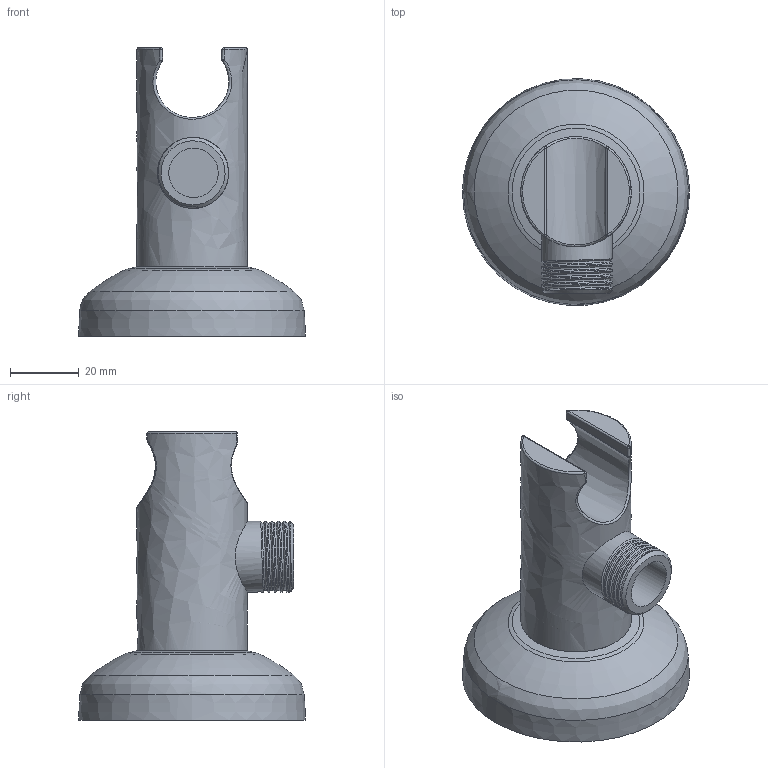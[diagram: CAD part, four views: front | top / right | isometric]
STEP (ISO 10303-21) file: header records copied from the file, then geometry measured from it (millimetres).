
FILE_DESCRIPTION(/* description */ (''),/* implementation_level */ '2;1');
FILE_NAME(/* name */ 'c:\worker\convert-fusion-r09\tmp\job-1\5\output\files\bb2e0d52-08d5-4457-8f8d-439637e3b1f9\7eff76ff-e566-47a0-8b2c-3e2f5fff1684.zip.stp',/* time_stamp */ '2019-12-14T15:53:03+00:00',/* author */ (''),/* organization */ (''),/* preprocessor_version */ 'ST-DEVELOPER v18',/* originating_system */ 'Autodesk Translation Framework v8.12.0.6',/* authorisation */ '');
FILE_SCHEMA (('AUTOMOTIVE_DESIGN { 1 0 10303 214 3 1 1 }'));
Length unit declared in the file: millimetre
Products named in the file (1): !8869
Bounding box: 65.92 x 65.83 x 83.69 mm (x, y, z)
Volume: 97602.9 mm3; surface area: 17563.8 mm2
Topology: 1 solids, 1 shells, 54 faces, 115 edges, 63 vertices
Faces by surface type: bspline 44, plane 9, cylinder 1
Entity records: 10111 total; most frequent: CARTESIAN_POINT 9225, ORIENTED_EDGE 222, EDGE_CURVE 111, DIRECTION 85, B_SPLINE_CURVE_WITH_KNOTS 63, VERTEX_POINT 63, EDGE_LOOP 58, FACE_OUTER_BOUND 54
